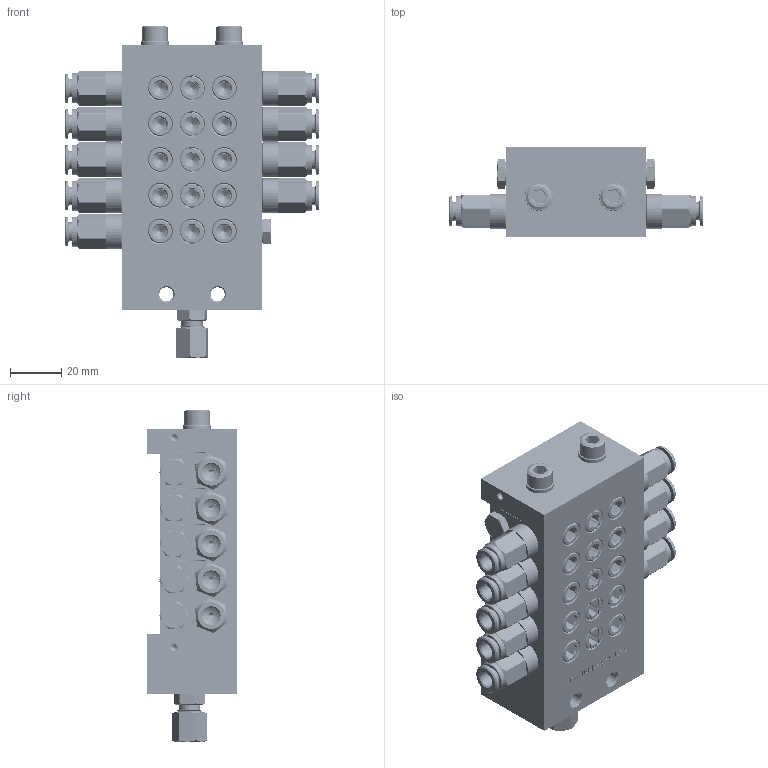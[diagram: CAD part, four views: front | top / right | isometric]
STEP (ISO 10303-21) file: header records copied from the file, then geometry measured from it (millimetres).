
FILE_DESCRIPTION (( 'STEP AP214' ), '1' );
FILE_NAME ('STW_XV_0143_09_0502_09_Auslässe.STEP', '2026-02-04T10:51:01', ( '' ), ( '' ), 'SwSTEP 2.0', 'SolidWorks 2022', '' );
FILE_SCHEMA (( 'AUTOMOTIVE_DESIGN' ));
Length unit declared in the file: millimetre
Products named in the file (19): 991214010601_Koerper; M6X65_DIN_912; STW_XV_ENGANG; Verschlussstopfen_1_8; RIVOLUZIONE_0_2; STW_XV_Kolbenanschlag; Verschlussstopfen_1_8_2; DR6-C_HDX_25.07.16_1; STW_XV_MITTEL_1; STW_XV_Verbindungsstopen; STW_XV_0143_09_0502_09_Auslässe; 991214010601; XV_Mittelelement; U_Scheibe_6; 991214010601_Schneidring; STW_XV_END; 991214010601_Mutter; OR 7.66X1.78_1; H200139_HDS01_6_M10X1_08.05.17
Assembly tree (49 placements, depth 3):
  STW_XV_0143_09_0502_09_Auslässe
    STW_XV_ENGANG
    STW_XV_MITTEL_1  x3
    STW_XV_END
    Verschlussstopfen_1_8_2  x6
    STW_XV_Kolbenanschlag  x6
    STW_XV_Verbindungsstopen  x3
    M6X65_DIN_912  x2
    U_Scheibe_6  x2
    991214010601
      991214010601_Koerper
      991214010601_Schneidring
      991214010601_Mutter
    XV_Mittelelement  x2
      STW_XV_MITTEL_1
      STW_XV_Kolbenanschlag
      Verschlussstopfen_1_8_2
      STW_XV_Verbindungsstopen
    H200139_HDS01_6_M10X1_08.05.17  x9
      OR 7.66X1.78_1
      DR6-C_HDX_25.07.16_1
      RIVOLUZIONE_0_2
    Verschlussstopfen_1_8
Bounding box: 99.6 x 35 x 129.68 mm (x, y, z)
Volume: 187495.9 mm3; surface area: 106625.9 mm2
Topology: 67 solids, 67 shells, 2285 faces, 5910 edges, 3804 vertices
Faces by surface type: plane 1127, cylinder 550, cone 433, bspline 165, torus 10
Full cylindrical faces by diameter (mm): 2 x137, 3 x12, 4.2 x9, 4.5 x1, 5 x56, 5.5 x2, 5.9 x2, 6 x3, 6.2 x22, 6.3 x9, 6.4 x2, 6.5 x10, 7 x10, 7.2 x9, 7.4 x1, 7.67 x1, 8 x11, 8.3 x1, 8.4 x5, 8.5 x9, 8.6 x25, 9 x12, 9.7 x11, 9.73 x5, 9.8 x7, 9.9 x9, 10 x30, 10.3 x9, 11 x2, 11.5 x9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
Entity records: 45592 total; most frequent: CARTESIAN_POINT 22441, ORIENTED_EDGE 3064, DIRECTION 2701, EDGE_CURVE 1532, VERTEX_POINT 1095, EDGE_LOOP 1035, AXIS2_PLACEMENT_3D 968, FACE_OUTER_BOUND 832
